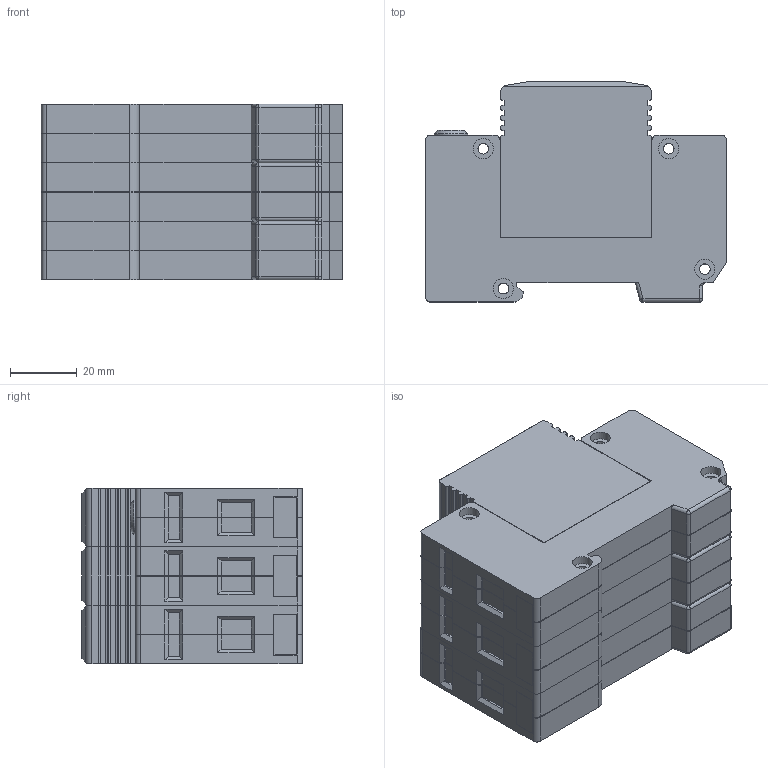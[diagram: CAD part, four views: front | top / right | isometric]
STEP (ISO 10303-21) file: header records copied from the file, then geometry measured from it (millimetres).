
FILE_DESCRIPTION(/* description */ (''),/* implementation_level */ '2;1');
FILE_NAME(/* name */ 'K:\PROJEKTY ROZPRACOVANÉ\MODELY DO KATALOGU\HSA, HLSA 24520, 10007\3D - STEP\HLSA 3+0 M.stp',/* time_stamp */ '2020-03-17T07:39:20+01:00',/* author */ ('M Koliska'),/* organization */ (''),/* preprocessor_version */ 'ST-DEVELOPER v18',/* originating_system */ 'Autodesk Inventor 2020',/* authorisation */ '');
FILE_SCHEMA (('AUTOMOTIVE_DESIGN { 1 0 10303 214 3 1 1 }'));
Length unit declared in the file: millimetre
Products named in the file (6): HLSA 3+0 M; HLSA M; HLSA M_1; HLSA M (Z); HLSA M (Z)_1; DIN 7985 (H) - M5x6-H
Assembly tree (8 placements, depth 3):
  HLSA 3+0 M
    HLSA M  x2
      HLSA M_1
      DIN 7985 (H) - M5x6-H
    HLSA M (Z)
      HLSA M (Z)_1
      DIN 7985 (H) - M5x6-H
Bounding box: 90 x 65.8 x 52.5 mm (x, y, z)
Volume: 251612.5 mm3; surface area: 61430.2 mm2
Topology: 8 solids, 8 shells, 1087 faces, 3063 edges, 2027 vertices
Faces by surface type: plane 763, cylinder 210, cone 86, sphere 17, torus 11
Full cylindrical faces by diameter (mm): 3.2 x12, 4.6 x5, 5 x5, 6 x24, 10 x1
Entity records: 20629 total; most frequent: CARTESIAN_POINT 3681, ORIENTED_EDGE 3572, DIRECTION 3429, EDGE_CURVE 1786, LINE 1391, VECTOR 1391, VERTEX_POINT 1179, AXIS2_PLACEMENT_3D 1019
